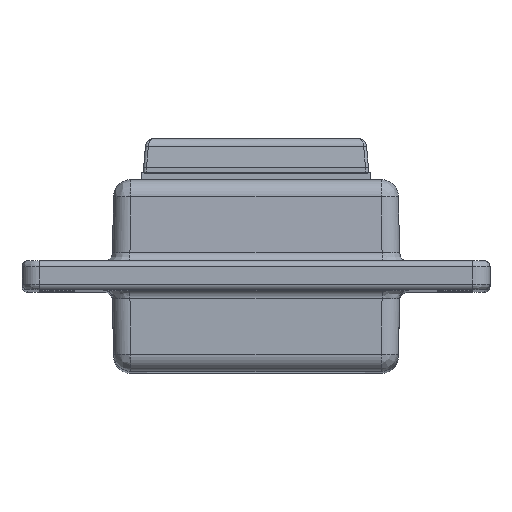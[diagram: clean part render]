
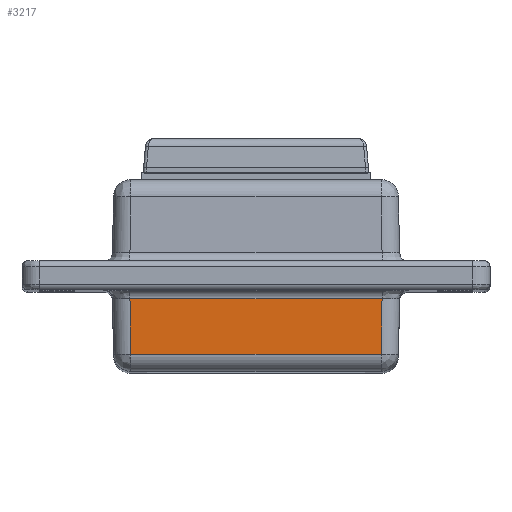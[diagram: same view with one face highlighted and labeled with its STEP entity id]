
A CAD part, top view. The second image highlights one B-rep face of the part: STEP entity #3217.
In plain terms, the highlighted planar face has unit normal (0, -0.018, 1).
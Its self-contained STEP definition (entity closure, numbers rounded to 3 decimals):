
#2392=CARTESIAN_POINT('',(-21.681,-3.974,101.431));
#2393=VERTEX_POINT('',#2392);
#2424=CARTESIAN_POINT('',(21.681,-3.974,101.431));
#2425=VERTEX_POINT('',#2424);
#2426=CARTESIAN_POINT('',(-21.681,-3.974,101.431));
#2427=DIRECTION('',(1.,0.,0.));
#2428=VECTOR('',#2427,43.362);
#2429=LINE('',#2426,#2428);
#2430=EDGE_CURVE('',#2393,#2425,#2429,.T.);
#3175=CARTESIAN_POINT('',(-21.514,-13.552,101.263));
#3176=VERTEX_POINT('',#3175);
#3184=CARTESIAN_POINT('',(-21.514,-13.552,101.263));
#3185=DIRECTION('',(-0.017,1.,0.017));
#3186=VECTOR('',#3185,9.581);
#3187=LINE('',#3184,#3186);
#3188=EDGE_CURVE('',#3176,#2393,#3187,.T.);
#3194=CARTESIAN_POINT('',(-24.75,0.,101.5));
#3195=DIRECTION('',(0.,-1.,-0.017));
#3196=DIRECTION('',(0.,-0.017,1.));
#3197=AXIS2_PLACEMENT_3D('',#3194,#3196,#3195);
#3198=PLANE('',#3197);
#3199=ORIENTED_EDGE('',*,*,#3188,.F.);
#3200=CARTESIAN_POINT('',(21.514,-13.552,101.263));
#3201=VERTEX_POINT('',#3200);
#3202=CARTESIAN_POINT('',(-21.514,-13.552,101.263));
#3203=DIRECTION('',(1.,0.,0.));
#3204=VECTOR('',#3203,43.028);
#3205=LINE('',#3202,#3204);
#3206=EDGE_CURVE('',#3176,#3201,#3205,.T.);
#3207=ORIENTED_EDGE('E156',*,*,#3206,.T.);
#3208=CARTESIAN_POINT('',(21.514,-13.552,101.263));
#3209=DIRECTION('',(0.017,1.,0.017));
#3210=VECTOR('',#3209,9.581);
#3211=LINE('',#3208,#3210);
#3212=EDGE_CURVE('',#3201,#2425,#3211,.T.);
#3213=ORIENTED_EDGE('E157',*,*,#3212,.T.);
#3214=ORIENTED_EDGE('E157',*,*,#2430,.F.);
#3215=EDGE_LOOP('',(#3199,#3207,#3213,#3214));
#3216=FACE_OUTER_BOUND('',#3215,.T.);
#3217=ADVANCED_FACE('F44',(#3216),#3198,.T.);
